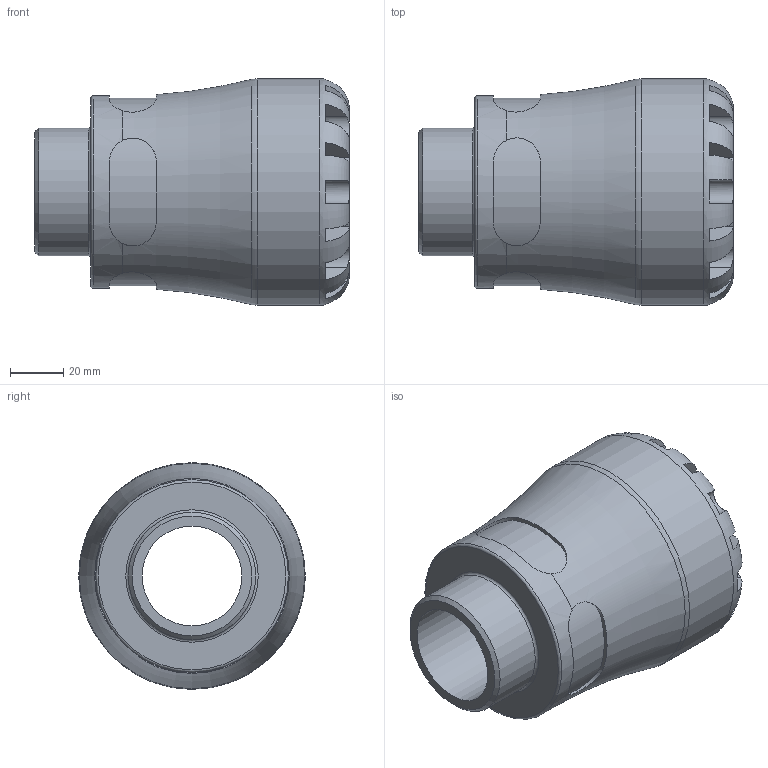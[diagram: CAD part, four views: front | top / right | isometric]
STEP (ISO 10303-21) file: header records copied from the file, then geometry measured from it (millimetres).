
FILE_DESCRIPTION(/* description */ ('PLASSON G-PLASS Male Adaptor 50X 1 1/2'''''),/* implementation_level */ '2;1');
FILE_NAME(/* name */ 'C:\Dropbox\KIMPROJECTS-Inventor 2019\99-16-3568-Processing\S1\150200\stp\150200050015.stp',/* time_stamp */ '2023-10-17T19:14:56+03:00',/* author */ ('KIM'),/* organization */ (''),/* preprocessor_version */ 'ST-DEVELOPER v17.2',/* originating_system */ 'Autodesk Inventor 2019',/* authorisation */ '');
FILE_SCHEMA (('AUTOMOTIVE_DESIGN { 1 0 10303 214 3 1 1 }'));
Length unit declared in the file: millimetre
Products named in the file (1): 150200050015
Bounding box: 118 x 85 x 85 mm (x, y, z)
Volume: 296486.2 mm3; surface area: 53389.2 mm2
Topology: 1 solids, 1 shells, 100 faces, 273 edges, 177 vertices
Faces by surface type: plane 60, cylinder 33, torus 5, cone 2
Full cylindrical faces by diameter (mm): 37.5 x1, 47.803 x1, 50 x1, 72.25 x1, 85 x1
Entity records: 4115 total; most frequent: CARTESIAN_POINT 1499, ORIENTED_EDGE 546, DIRECTION 517, EDGE_CURVE 273, AXIS2_PLACEMENT_3D 215, VERTEX_POINT 177, CIRCLE 114, EDGE_LOOP 104
